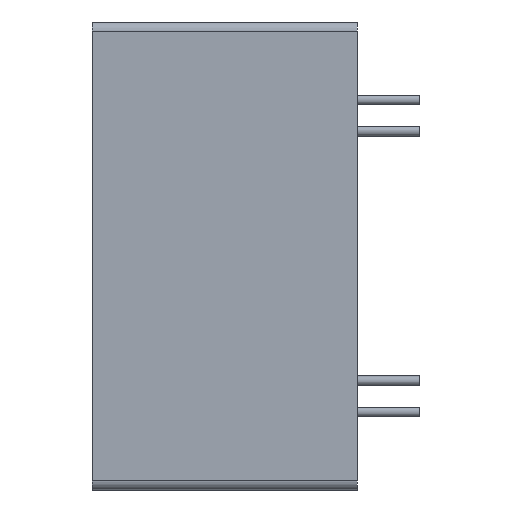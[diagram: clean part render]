
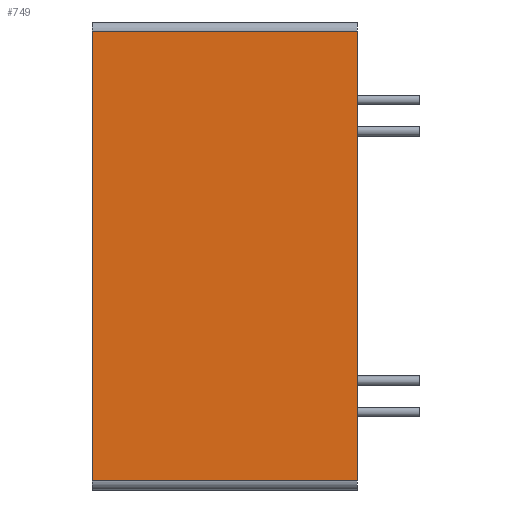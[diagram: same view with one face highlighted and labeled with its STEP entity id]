
A CAD part, left-side view. The second image highlights one B-rep face of the part: STEP entity #749.
In plain terms, the highlighted planar face has unit normal (-1, 0, 0).
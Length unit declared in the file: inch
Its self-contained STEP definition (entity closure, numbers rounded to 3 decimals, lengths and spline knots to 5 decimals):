
#50 = ORIENTED_EDGE ( 'NONE', *, *, #1155, .T. ) ;
#77 = VECTOR ( 'NONE', #281, 39.37008 ) ;
#128 = LINE ( 'NONE', #1255, #491 ) ;
#188 = DIRECTION ( 'NONE',  ( 0., 0., -1. ) ) ;
#191 = DIRECTION ( 'NONE',  ( 0., 0., 1. ) ) ;
#218 = FACE_OUTER_BOUND ( 'NONE', #893, .T. ) ;
#225 = LINE ( 'NONE', #704, #1240 ) ;
#251 = CARTESIAN_POINT ( 'NONE',  ( -1.25, 0.85, -0.72 ) ) ;
#281 = DIRECTION ( 'NONE',  ( 0., -1., 0. ) ) ;
#345 = LINE ( 'NONE', #1125, #77 ) ;
#352 = PLANE ( 'NONE',  #1059 ) ;
#395 = VECTOR ( 'NONE', #630, 39.37008 ) ;
#425 = CARTESIAN_POINT ( 'NONE',  ( -1.25, 0., 0.75 ) ) ;
#436 = EDGE_CURVE ( 'NONE', #709, #688, #225, .T. ) ;
#491 = VECTOR ( 'NONE', #579, 39.37008 ) ;
#520 = ORIENTED_EDGE ( 'NONE', *, *, #847, .T. ) ;
#579 = DIRECTION ( 'NONE',  ( 0., 1., 0. ) ) ;
#630 = DIRECTION ( 'NONE',  ( 0., 0., 1. ) ) ;
#674 = CARTESIAN_POINT ( 'NONE',  ( -1.25, 0.85, 0.75 ) ) ;
#688 = VERTEX_POINT ( 'NONE', #746 ) ;
#704 = CARTESIAN_POINT ( 'NONE',  ( -1.25, 0.85, 0.75 ) ) ;
#709 = VERTEX_POINT ( 'NONE', #251 ) ;
#728 = VERTEX_POINT ( 'NONE', #741 ) ;
#741 = CARTESIAN_POINT ( 'NONE',  ( -1.25, 0., 0.72 ) ) ;
#746 = CARTESIAN_POINT ( 'NONE',  ( -1.25, 0.85, 0.72 ) ) ;
#749 = ADVANCED_FACE ( 'NONE', ( #218 ), #352, .F. ) ;
#758 = CARTESIAN_POINT ( 'NONE',  ( -1.25, 0., -0.72 ) ) ;
#847 = EDGE_CURVE ( 'NONE', #728, #688, #128, .T. ) ;
#882 = LINE ( 'NONE', #425, #395 ) ;
#893 = EDGE_LOOP ( 'NONE', ( #988, #1018, #50, #520 ) ) ;
#988 = ORIENTED_EDGE ( 'NONE', *, *, #436, .F. ) ;
#1018 = ORIENTED_EDGE ( 'NONE', *, *, #1287, .T. ) ;
#1059 = AXIS2_PLACEMENT_3D ( 'NONE', #674, #1166, #188 ) ;
#1125 = CARTESIAN_POINT ( 'NONE',  ( -1.25, 0.85, -0.72 ) ) ;
#1155 = EDGE_CURVE ( 'NONE', #1204, #728, #882, .T. ) ;
#1166 = DIRECTION ( 'NONE',  ( 1., 0., 0. ) ) ;
#1204 = VERTEX_POINT ( 'NONE', #758 ) ;
#1240 = VECTOR ( 'NONE', #191, 39.37008 ) ;
#1255 = CARTESIAN_POINT ( 'NONE',  ( -1.25, 0.85, 0.72 ) ) ;
#1287 = EDGE_CURVE ( 'NONE', #709, #1204, #345, .T. ) ;
